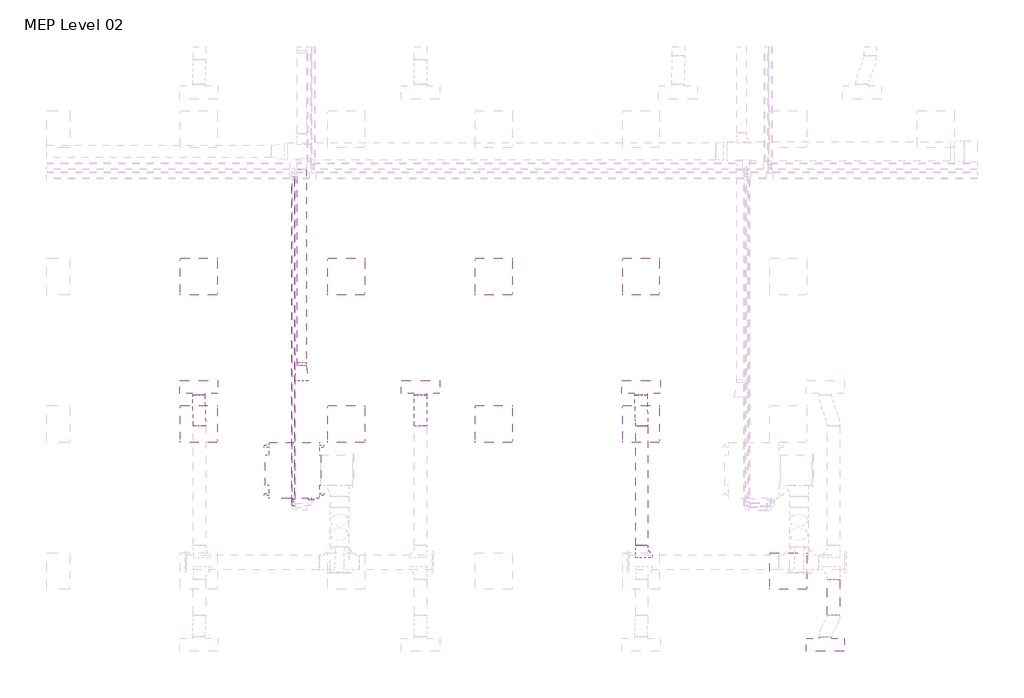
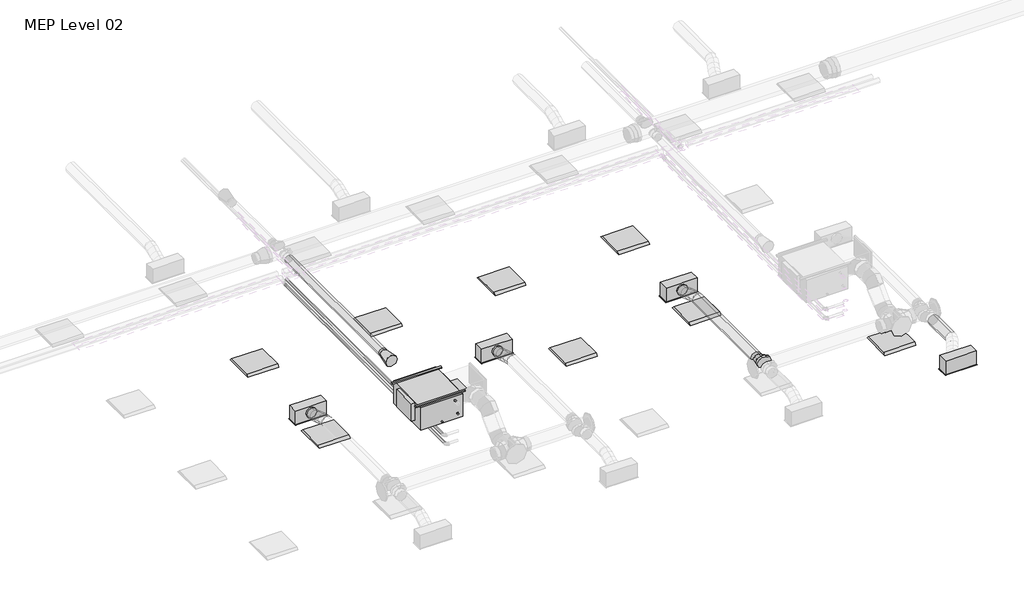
# One storey, part 6 of 26: 9 light fixtures, 6 duct segments, 5 air terminals, 2 pipe segments, 1 duct fitting, 1 proxy.
"""IFC4 building model written with IfcOpenShell, lengths in millimetres."""

from ifc_helpers import new_model, si_unit, point, frame, frame_2d, origin, place, context, project, spatial, circle_curve, ellipse_curve, trimmed, segment, composite_curve, outline, extrude, transform, mapped, element, save
from ifc_brep_helpers import plane_surface, cylinder_surface, advanced_brep
from components import air_terminal_0d1c431e, supply_diffuser_with_plenum_linear_slot_hosted_8c379eed, fan_coil_unit_ceiling_ducted_chw_376_lps_48d57206, dw144_round_shoe_branch_slip_joint_standard_15a2edd8, light_fixture_600x600_230_1c7c1157, light_fixture_600x600_230_b730b5ca

model = new_model("IFC4")

# Units and contexts
model_context = context("Model", 3, world=origin())
ifc_project = project(units=[si_unit("LENGTHUNIT", "METRE", prefix="MILLI")], contexts=[model_context])

# Site, building, storey
site = spatial("IfcSite", under=ifc_project)
building = spatial("IfcBuilding", under=site)
storey = spatial("IfcBuildingStorey", under=building, Name="MEP Level 02", Elevation=7800.0)

# Air terminals
placement = place(None, origin())
air_terminal_shape = air_terminal_0d1c431e(model_context)
element("IfcAirTerminal", 1, ObjectType="Supply_Bell_Mouth_Grille : Supply_Bell_Mouth_Grille", at=placement, inside=storey, context=model_context, shape_type="MappedRepresentation", body=[
    mapped(air_terminal_shape, transform((18039.0080407, 5510.2561435, 11100.0), x_axis=(0.0, -1.0, 0.0), y_axis=(1.0, 0.0, 0.0), z_axis=(0.0, 0.0, 1.0))),
])
supply_diffuser_with_plenum_linear_slot_hosted_shape = supply_diffuser_with_plenum_linear_slot_hosted_8c379eed(model_context)
element("IfcAirTerminal", 2, ObjectType="Supply Diffuser with Plenum - Linear Slot - Hosted : 600mmx193.8mm-200 In Inlet  4-Slot", at=placement, inside=storey, context=model_context, shape_type="MappedRepresentation", body=[
    mapped(supply_diffuser_with_plenum_linear_slot_hosted_shape, transform((26562.2000027, 963.2000004, 10600.0), x_axis=(1.0, 0.0, 0.0), y_axis=(0.0, -1.0, 0.0), z_axis=(0.0, 0.0, -1.0))),
])
element("IfcAirTerminal", 3, ObjectType="Supply Diffuser with Plenum - Linear Slot - Hosted : 600mmx193.8mm-200 In Inlet  4-Slot", at=placement, inside=storey, context=model_context, shape_type="MappedRepresentation", body=[
    mapped(supply_diffuser_with_plenum_linear_slot_hosted_shape, transform((16362.2000027, 5163.2000004, 10600.0), x_axis=(-1.0, 0.0, 0.0), y_axis=(0.0, 1.0, 0.0), z_axis=(0.0, 0.0, -1.0))),
])
element("IfcAirTerminal", 4, ObjectType="Supply Diffuser with Plenum - Linear Slot - Hosted : 600mmx193.8mm-200 In Inlet  4-Slot", at=placement, inside=storey, context=model_context, shape_type="MappedRepresentation", body=[
    mapped(supply_diffuser_with_plenum_linear_slot_hosted_shape, transform((19973.9000022, 5163.2000004, 10600.0), x_axis=(-1.0, 0.0, 0.0), y_axis=(0.0, 1.0, 0.0), z_axis=(0.0, 0.0, -1.0))),
])
element("IfcAirTerminal", 5, ObjectType="Supply Diffuser with Plenum - Linear Slot - Hosted : 600mmx193.8mm-200 In Inlet  4-Slot", at=placement, inside=storey, context=model_context, shape_type="MappedRepresentation", body=[
    mapped(supply_diffuser_with_plenum_linear_slot_hosted_shape, transform((23562.2000027, 5163.2000004, 10600.0), x_axis=(-1.0, 0.0, 0.0), y_axis=(0.0, 1.0, 0.0), z_axis=(0.0, 0.0, -1.0))),
])

# Proxy
fan_coil_unit_ceiling_ducted_chw_376_lps_shape = fan_coil_unit_ceiling_ducted_chw_376_lps_48d57206(model_context)
element("IfcBuildingElementProxy", 6, Name="Fan Coil Unit - Ceiling Ducted - CHW : 376 LPS", ObjectType="Fan Coil Unit - Ceiling Ducted - CHW : 376 LPS", at=placement, inside=storey, context=model_context, shape_type="MappedRepresentation", body=[
    mapped(fan_coil_unit_ceiling_ducted_chw_376_lps_shape, transform((18321.2561025, 4263.2000004, 11022.3911538), x_axis=(0.0, -1.0, 0.0), y_axis=(1.0, 0.0, 0.0), z_axis=(0.0, 0.0, 1.0))),
])

# Duct fitting
dw144_round_shoe_branch_slip_joint_standard_shape = dw144_round_shoe_branch_slip_joint_standard_15a2edd8(model_context)
element("IfcDuctFitting", 7, ObjectType="DW144 Round Shoe Branch - Slip Joint : Standard", at=placement, inside=storey, context=model_context, shape_type="MappedRepresentation", body=[
    mapped(dw144_round_shoe_branch_slip_joint_standard_shape, transform((23573.9000022, 2431.5018192, 10872.2088531), x_axis=(0.0, 1.0, 0.0), y_axis=(-1.0, 0.0, 0.0), z_axis=(0.0, 0.0, 1.0))),
])

# Duct segments
element("IfcDuctSegment", 8, ObjectType="DW144 Segmented Bend / Shoe Branch", at=placement, inside=storey, context=model_context, shape_type="SweptSolid", body=[
    extrude(outline(composite_curve([segment(trimmed(circle_curve(frame_2d((10872.2088531, 26693.9000022)), 100.0), [point((10872.2088531, 26593.9000022))], [point((10772.2088531, 26693.9000022))], False, "CARTESIAN"), True, "CONTINUOUS"), segment(trimmed(circle_curve(frame_2d((10872.2088531, 26693.9000022)), 100.0), [point((10772.2088531, 26693.9000022))], [point((10872.2088531, 26793.9000022))], False, "CARTESIAN"), True, "CONTINUOUS"), segment(trimmed(circle_curve(frame_2d((10872.2088531, 26693.9000022)), 100.0), [point((10872.2088531, 26793.9000022))], [point((10972.2088531, 26693.9000022))], False, "CARTESIAN"), True, "CONTINUOUS"), segment(trimmed(circle_curve(frame_2d((10872.2088531, 26693.9000022)), 100.0), [point((10972.2088531, 26693.9000022))], [point((10872.2088531, 26593.9000022))], False, "CARTESIAN"), True, "CONTINUOUS")], self_intersect=False)), frame((0.0, 1441.5018192, 0.0), z_axis=(0.0, 1.0, 0.0), x_axis=(0.0, 0.0, 1.0)), (0.0, 0.0, 1.0), 590.0),
])
element("IfcDuctSegment", 9, ObjectType="DW144 Segmented Bend / Shoe Branch", at=placement, inside=storey, context=model_context, shape_type="SweptSolid", body=[
    extrude(outline(composite_curve([segment(trimmed(circle_curve(frame_2d((10872.2088531, 23573.9000022)), 100.0), [point((10872.2088531, 23673.9000022))], [point((10972.2088531, 23573.9000022))], False, "CARTESIAN"), True, "CONTINUOUS"), segment(trimmed(circle_curve(frame_2d((10872.2088531, 23573.9000022)), 100.0), [point((10972.2088531, 23573.9000022))], [point((10872.2088531, 23473.9000022))], False, "CARTESIAN"), True, "CONTINUOUS"), segment(trimmed(circle_curve(frame_2d((10872.2088531, 23573.9000022)), 100.0), [point((10872.2088531, 23473.9000022))], [point((10772.2088531, 23573.9000022))], False, "CARTESIAN"), True, "CONTINUOUS"), segment(trimmed(circle_curve(frame_2d((10872.2088531, 23573.9000022)), 100.0), [point((10772.2088531, 23573.9000022))], [point((10872.2088531, 23673.9000022))], False, "CARTESIAN"), True, "CONTINUOUS")], self_intersect=False)), frame((0.0, 2581.5018192, 0.0), z_axis=(0.0, 1.0, 0.0), x_axis=(0.0, 0.0, 1.0)), (0.0, 0.0, 1.0), 1950.0),
])
element("IfcDuctSegment", 10, ObjectType="DW144 Segmented Bend / Shoe Branch", at=placement, inside=storey, context=model_context, shape_type="SweptSolid", body=[
    extrude(outline(composite_curve([segment(trimmed(circle_curve(frame_2d((11100.0, 18039.0080407)), 75.0), [point((11100.0, 17964.0080407))], [point((11025.0, 18039.0080407))], False, "CARTESIAN"), True, "CONTINUOUS"), segment(trimmed(circle_curve(frame_2d((11100.0, 18039.0080407)), 75.0), [point((11025.0, 18039.0080407))], [point((11100.0, 18114.0080407))], False, "CARTESIAN"), True, "CONTINUOUS"), segment(trimmed(circle_curve(frame_2d((11100.0, 18039.0080407)), 75.0), [point((11100.0, 18114.0080407))], [point((11175.0, 18039.0080407))], False, "CARTESIAN"), True, "CONTINUOUS"), segment(trimmed(circle_curve(frame_2d((11100.0, 18039.0080407)), 75.0), [point((11175.0, 18039.0080407))], [point((11100.0, 17964.0080407))], False, "CARTESIAN"), True, "CONTINUOUS")], self_intersect=False)), frame((0.0, 5510.2561435, 0.0), z_axis=(0.0, 1.0, 0.0), x_axis=(0.0, 0.0, 1.0)), (0.0, 0.0, 1.0), 3199.1601689),
])
element("IfcDuctSegment", 11, ObjectType="Flex - Round", at=placement, inside=storey, context=model_context, shape_type="AdvancedBrep", body=[
    advanced_brep(
    [(16273.9000022, 4531.5018192, 10872.2088531), (16373.9000022, 4531.5018192, 10772.2088531), (16473.9000022, 4531.5018192, 10872.2088531), (16373.9000022, 4531.5018192, 10972.2088531), (16273.9000022, 4545.0398748, 10872.2088531), (16373.9000022, 4537.729612, 10772.2088531), (16473.9000022, 4546.6519942, 10872.2088531), (16373.9000022, 4553.962257, 10972.2088531), (16262.2000027, 5034.3000004, 10754.4), (16362.2000027, 5034.3000004, 10854.4), (16462.2000027, 5034.3000004, 10754.4), (16362.2000027, 5034.3000004, 10654.4), (16272.0969471, 4656.1396088, 10854.0536514), (16372.3243089, 4634.8198875, 10756.3429867), (16472.0468075, 4660.8412095, 10853.5487883), (16371.8194457, 4682.1609309, 10951.2594529), (16268.0984043, 4779.8283707, 10813.7917909), (16368.5373668, 4751.9631047, 10718.2117629), (16468.0016006, 4785.9734489, 10812.8170622), (16367.5626381, 4813.8387149, 10908.3970903), (16264.0531974, 4904.9606101, 10773.0600649), (16364.2805591, 4883.6408888, 10675.3494002), (16464.0030578, 4909.6622108, 10772.5552017), (16363.775696, 4930.9819322, 10870.2658664), (16262.2000027, 5019.1498254, 10754.4), (16362.2000027, 5011.8395627, 10654.4), (16462.2000027, 5020.7619448, 10754.4), (16362.2000027, 5028.0722076, 10854.4)],
    [
        (0, 1, circle_curve(frame((16373.9000022, 4531.5018192, 10872.2088531), z_axis=(0.0, -1.0, 0.0), x_axis=(-1.0, 0.0, 0.0)), 100.0)),
        (1, 2, circle_curve(frame((16373.9000022, 4531.5018192, 10872.2088531), z_axis=(0.0, -1.0, 0.0), x_axis=(-1.0, 0.0, 0.0)), 100.0)),
        (2, 3, circle_curve(frame((16373.9000022, 4531.5018192, 10872.2088531), z_axis=(0.0, -1.0, 0.0), x_axis=(-1.0, 0.0, 0.0)), 100.0)),
        (3, 0, circle_curve(frame((16373.9000022, 4531.5018192, 10872.2088531), z_axis=(0.0, -1.0, 0.0), x_axis=(-1.0, 0.0, 0.0)), 100.0)),
        (0, 4),
        (4, 5, ellipse_curve(frame((16373.9000022, 4545.8459345, 10872.2088531), z_axis=(0.008033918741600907, -0.9966902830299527, 0.08089459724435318), x_axis=(-0.09850014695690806, -0.08129255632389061, -0.9918110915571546)), 100.3320708, 100.0)),
        (5, 1),
        (5, 6, ellipse_curve(frame((16373.9000022, 4545.8459345, 10872.2088531), z_axis=(0.008033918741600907, -0.9966902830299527, 0.08089459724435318), x_axis=(-0.09850014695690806, -0.08129255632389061, -0.9918110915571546)), 100.3320708, 100.0)),
        (6, 2),
        (6, 7, ellipse_curve(frame((16373.9000022, 4545.8459345, 10872.2088531), z_axis=(0.008033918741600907, -0.9966902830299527, 0.08089459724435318), x_axis=(-0.09850014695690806, -0.08129255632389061, -0.9918110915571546)), 100.3320708, 100.0)),
        (7, 3),
        (7, 4, ellipse_curve(frame((16373.9000022, 4545.8459345, 10872.2088531), z_axis=(0.008033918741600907, -0.9966902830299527, 0.08089459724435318), x_axis=(-0.09850014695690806, -0.08129255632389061, -0.9918110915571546)), 100.3320708, 100.0)),
        (8, 9, circle_curve(frame((16362.2000027, 5034.3000004, 10754.4), z_axis=(0.0, 1.0, 0.0), x_axis=(-1.0, 0.0, 0.0)), 100.0)),
        (9, 10, circle_curve(frame((16362.2000027, 5034.3000004, 10754.4), z_axis=(0.0, 1.0, 0.0), x_axis=(-1.0, 0.0, 0.0)), 100.0)),
        (10, 11, circle_curve(frame((16362.2000027, 5034.3000004, 10754.4), z_axis=(0.0, 1.0, 0.0), x_axis=(-1.0, 0.0, 0.0)), 100.0)),
        (11, 8, circle_curve(frame((16362.2000027, 5034.3000004, 10754.4), z_axis=(0.0, 1.0, 0.0), x_axis=(-1.0, 0.0, 0.0)), 100.0)),
        (4, 12),
        (12, 13, ellipse_curve(frame((16372.0718773, 4658.4904092, 10853.8012198), z_axis=(0.023438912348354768, -0.9714680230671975, 0.23600952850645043), x_axis=(-0.0960075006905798, -0.23717057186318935, -0.9667123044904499)), 100.2947714, 100.0)),
        (13, 5),
        (13, 14, ellipse_curve(frame((16372.0718773, 4658.4904092, 10853.8012198), z_axis=(0.023438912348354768, -0.9714680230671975, 0.23600952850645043), x_axis=(-0.0960075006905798, -0.23717057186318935, -0.9667123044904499)), 100.2947714, 100.0)),
        (14, 6),
        (14, 15, ellipse_curve(frame((16372.0718773, 4658.4904092, 10853.8012198), z_axis=(0.023438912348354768, -0.9714680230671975, 0.23600952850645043), x_axis=(-0.0960075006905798, -0.23717057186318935, -0.9667123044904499)), 100.2947714, 100.0)),
        (15, 7),
        (15, 12, ellipse_curve(frame((16372.0718773, 4658.4904092, 10853.8012198), z_axis=(0.023438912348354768, -0.9714680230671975, 0.23600952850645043), x_axis=(-0.0960075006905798, -0.23717057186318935, -0.9667123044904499)), 100.2947714, 100.0)),
        (12, 16),
        (16, 17, circle_curve(frame((16368.0500024, 4782.9009098, 10813.3044266), z_axis=(0.030725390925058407, -0.950442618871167, 0.30937805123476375), x_axis=(-0.999515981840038, -0.030725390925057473, 0.0048736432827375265)), 100.0)),
        (17, 13),
        (17, 18, circle_curve(frame((16368.0500024, 4782.9009098, 10813.3044266), z_axis=(0.030725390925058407, -0.950442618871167, 0.30937805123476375), x_axis=(-0.999515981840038, -0.030725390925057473, 0.0048736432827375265)), 100.0)),
        (18, 14),
        (18, 19, circle_curve(frame((16368.0500024, 4782.9009098, 10813.3044266), z_axis=(0.030725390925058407, -0.950442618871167, 0.30937805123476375), x_axis=(-0.999515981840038, -0.030725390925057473, 0.0048736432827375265)), 100.0)),
        (19, 15),
        (19, 16, circle_curve(frame((16368.0500024, 4782.9009098, 10813.3044266), z_axis=(0.030725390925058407, -0.950442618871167, 0.30937805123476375), x_axis=(-0.999515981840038, -0.030725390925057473, 0.0048736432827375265)), 100.0)),
        (16, 20),
        (20, 21, ellipse_curve(frame((16364.0281276, 4907.3114105, 10772.8076333), z_axis=(0.023438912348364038, -0.971468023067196, 0.23600952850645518), x_axis=(0.09600750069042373, 0.23717057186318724, 0.9667123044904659)), 100.2947714, 100.0)),
        (21, 17),
        (21, 22, ellipse_curve(frame((16364.0281276, 4907.3114105, 10772.8076333), z_axis=(0.023438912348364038, -0.971468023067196, 0.23600952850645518), x_axis=(0.09600750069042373, 0.23717057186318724, 0.9667123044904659)), 100.2947714, 100.0)),
        (22, 18),
        (22, 23, ellipse_curve(frame((16364.0281276, 4907.3114105, 10772.8076333), z_axis=(0.023438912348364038, -0.971468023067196, 0.23600952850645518), x_axis=(0.09600750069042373, 0.23717057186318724, 0.9667123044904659)), 100.2947714, 100.0)),
        (23, 19),
        (23, 20, ellipse_curve(frame((16364.0281276, 4907.3114105, 10772.8076333), z_axis=(0.023438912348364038, -0.971468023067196, 0.23600952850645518), x_axis=(0.09600750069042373, 0.23717057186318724, 0.9667123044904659)), 100.2947714, 100.0)),
        (20, 24),
        (24, 25, ellipse_curve(frame((16362.2000027, 5019.9558851, 10754.4), z_axis=(0.008033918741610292, -0.9966902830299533, 0.08089459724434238), x_axis=(0.0985001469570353, 0.08129255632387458, 0.9918110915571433)), 100.3320708, 100.0)),
        (25, 21),
        (25, 26, ellipse_curve(frame((16362.2000027, 5019.9558851, 10754.4), z_axis=(0.008033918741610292, -0.9966902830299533, 0.08089459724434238), x_axis=(0.0985001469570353, 0.08129255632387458, 0.9918110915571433)), 100.3320708, 100.0)),
        (26, 22),
        (26, 27, ellipse_curve(frame((16362.2000027, 5019.9558851, 10754.4), z_axis=(0.008033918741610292, -0.9966902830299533, 0.08089459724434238), x_axis=(0.0985001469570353, 0.08129255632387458, 0.9918110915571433)), 100.3320708, 100.0)),
        (27, 23),
        (27, 24, ellipse_curve(frame((16362.2000027, 5019.9558851, 10754.4), z_axis=(0.008033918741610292, -0.9966902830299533, 0.08089459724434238), x_axis=(0.0985001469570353, 0.08129255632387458, 0.9918110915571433)), 100.3320708, 100.0)),
        (24, 8),
        (11, 25),
        (10, 26),
        (9, 27),
    ],
    [
        plane_surface(frame((16273.9000022, 4531.5018192, 10872.2088531), z_axis=(0.0, -1.0, 0.0), x_axis=(0.0, 0.0, 1.0))),
        cylinder_surface(frame((16373.9000022, 4531.5018192, 10872.2088531), z_axis=(0.0, -1.0, 0.0), x_axis=(-1.0, 0.0, 0.0)), 100.0),
        plane_surface(frame((16262.2000027, 5034.3000004, 10754.4), z_axis=(0.0, 1.0, 0.0), x_axis=(0.0, 0.0, 1.0))),
        cylinder_surface(frame((16373.9000022, 4545.8459345, 10872.2088531), z_axis=(0.0160146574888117, -0.9867830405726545, 0.1612537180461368), x_axis=(-0.9998709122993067, -0.0160146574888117, 0.0012998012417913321)), 100.0),
        cylinder_surface(frame((16372.0718773, 4658.4904092, 10853.8012198), z_axis=(0.030725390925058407, -0.950442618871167, 0.30937805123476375), x_axis=(-0.999515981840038, -0.030725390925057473, 0.0048736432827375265)), 100.0),
        cylinder_surface(frame((16368.0500024, 4782.9009098, 10813.3044266), z_axis=(0.030725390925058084, -0.9504426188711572, 0.3093780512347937), x_axis=(-0.999515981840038, -0.030725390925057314, 0.00487364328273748)), 100.0),
        cylinder_surface(frame((16364.0281276, 4907.3114105, 10772.8076333), z_axis=(0.016014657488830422, -0.9867830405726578, 0.16125371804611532), x_axis=(-0.9998709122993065, -0.01601465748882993, 0.0012998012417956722)), 100.0),
        cylinder_surface(frame((16362.2000027, 5019.9558851, 10754.4), z_axis=(0.0, -1.0, 0.0), x_axis=(-1.0, 0.0, 0.0)), 100.0),
    ],
    [
        (0, [[1, 2, 3, 4]]),
        (1, [[-1, 5, 6, 7]]),
        (1, [[-2, -7, 8, 9]]),
        (1, [[-3, -9, 10, 11]]),
        (1, [[-4, -11, 12, -5]]),
        (2, [[13, 14, 15, 16]]),
        (3, [[-6, 17, 18, 19]]),
        (3, [[-8, -19, 20, 21]]),
        (3, [[-10, -21, 22, 23]]),
        (3, [[-12, -23, 24, -17]]),
        (4, [[-18, 25, 26, 27]]),
        (4, [[-20, -27, 28, 29]]),
        (4, [[-22, -29, 30, 31]]),
        (4, [[-24, -31, 32, -25]]),
        (5, [[-26, 33, 34, 35]]),
        (5, [[-28, -35, 36, 37]]),
        (5, [[-30, -37, 38, 39]]),
        (5, [[-32, -39, 40, -33]]),
        (6, [[-34, 41, 42, 43]]),
        (6, [[-36, -43, 44, 45]]),
        (6, [[-38, -45, 46, 47]]),
        (6, [[-40, -47, 48, -41]]),
        (7, [[-42, 49, -16, 50]]),
        (7, [[-44, -50, -15, 51]]),
        (7, [[-46, -51, -14, 52]]),
        (7, [[-48, -52, -13, -49]]),
    ],
),
])
element("IfcDuctSegment", 12, ObjectType="Flex - Round", at=placement, inside=storey, context=model_context, shape_type="AdvancedBrep", body=[
    advanced_brep(
    [(19873.9000022, 4531.5018192, 10872.2088531), (19973.9000022, 4531.5018192, 10772.2088531), (20073.9000022, 4531.5018192, 10872.2088531), (19973.9000022, 4531.5018192, 10972.2088531), (19873.9000022, 4545.8487649, 10872.2088531), (19973.9000022, 4537.7308336, 10772.2088531), (20073.9000022, 4545.8487649, 10872.2088531), (19973.9000022, 4553.9666963, 10972.2088531), (19873.9000022, 5034.3000004, 10754.4), (19973.9000022, 5034.3000004, 10854.4), (20073.9000022, 5034.3000004, 10754.4), (19973.9000022, 5034.3000004, 10654.4), (19873.9000022, 4658.4779853, 10853.8012198), (19973.9000022, 4634.8007072, 10756.3441723), (20073.9000022, 4658.4779853, 10853.8012198), (19973.9000022, 4682.1552634, 10951.2582674), (19873.9000022, 4782.9009098, 10813.3044266), (19973.9000022, 4751.9512855, 10718.21436), (20073.9000022, 4782.9009098, 10813.3044266), (19973.9000022, 4813.8505341, 10908.3944931), (19873.9000022, 4907.3238344, 10772.8076333), (19973.9000022, 4883.6465563, 10675.3505857), (20073.9000022, 4907.3238344, 10772.8076333), (19973.9000022, 4931.0011125, 10870.2646809), (19873.9000022, 5019.9530547, 10754.4), (19973.9000022, 5011.8351234, 10654.4), (20073.9000022, 5019.9530547, 10754.4), (19973.9000022, 5028.070986, 10854.4)],
    [
        (0, 1, circle_curve(frame((19973.9000022, 4531.5018192, 10872.2088531), z_axis=(0.0, -1.0, 0.0), x_axis=(-1.0, 0.0, 0.0)), 100.0)),
        (1, 2, circle_curve(frame((19973.9000022, 4531.5018192, 10872.2088531), z_axis=(0.0, -1.0, 0.0), x_axis=(-1.0, 0.0, 0.0)), 100.0)),
        (2, 3, circle_curve(frame((19973.9000022, 4531.5018192, 10872.2088531), z_axis=(0.0, -1.0, 0.0), x_axis=(-1.0, 0.0, 0.0)), 100.0)),
        (3, 0, circle_curve(frame((19973.9000022, 4531.5018192, 10872.2088531), z_axis=(0.0, -1.0, 0.0), x_axis=(-1.0, 0.0, 0.0)), 100.0)),
        (0, 4),
        (4, 5, ellipse_curve(frame((19973.9000022, 4545.8487649, 10872.2088531), z_axis=(0.0, -0.9967211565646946, 0.08091313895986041), x_axis=(0.0, -0.08091313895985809, -0.9967211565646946)), 100.328963, 100.0)),
        (5, 1),
        (5, 6, ellipse_curve(frame((19973.9000022, 4545.8487649, 10872.2088531), z_axis=(0.0, -0.9967211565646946, 0.08091313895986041), x_axis=(0.0, -0.08091313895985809, -0.9967211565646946)), 100.328963, 100.0)),
        (6, 2),
        (6, 7, ellipse_curve(frame((19973.9000022, 4545.8487649, 10872.2088531), z_axis=(0.0, -0.9967211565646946, 0.08091313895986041), x_axis=(0.0, -0.08091313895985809, -0.9967211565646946)), 100.328963, 100.0)),
        (7, 3),
        (7, 4, ellipse_curve(frame((19973.9000022, 4545.8487649, 10872.2088531), z_axis=(0.0, -0.9967211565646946, 0.08091313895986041), x_axis=(0.0, -0.08091313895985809, -0.9967211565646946)), 100.328963, 100.0)),
        (8, 9, circle_curve(frame((19973.9000022, 5034.3000004, 10754.4), z_axis=(0.0, 1.0, 0.0), x_axis=(-1.0, 0.0, 0.0)), 100.0)),
        (9, 10, circle_curve(frame((19973.9000022, 5034.3000004, 10754.4), z_axis=(0.0, 1.0, 0.0), x_axis=(-1.0, 0.0, 0.0)), 100.0)),
        (10, 11, circle_curve(frame((19973.9000022, 5034.3000004, 10754.4), z_axis=(0.0, 1.0, 0.0), x_axis=(-1.0, 0.0, 0.0)), 100.0)),
        (11, 8, circle_curve(frame((19973.9000022, 5034.3000004, 10754.4), z_axis=(0.0, 1.0, 0.0), x_axis=(-1.0, 0.0, 0.0)), 100.0)),
        (4, 12),
        (12, 13, ellipse_curve(frame((19973.9000022, 4658.4779853, 10853.8012198), z_axis=(0.0, -0.9717328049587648, 0.23608336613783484), x_axis=(0.0, -0.23608336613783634, -0.9717328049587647)), 100.2920217, 100.0)),
        (13, 5),
        (13, 14, ellipse_curve(frame((19973.9000022, 4658.4779853, 10853.8012198), z_axis=(0.0, -0.9717328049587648, 0.23608336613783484), x_axis=(0.0, -0.23608336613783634, -0.9717328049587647)), 100.2920217, 100.0)),
        (14, 6),
        (14, 15, ellipse_curve(frame((19973.9000022, 4658.4779853, 10853.8012198), z_axis=(0.0, -0.9717328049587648, 0.23608336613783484), x_axis=(0.0, -0.23608336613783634, -0.9717328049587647)), 100.2920217, 100.0)),
        (15, 7),
        (15, 12, ellipse_curve(frame((19973.9000022, 4658.4779853, 10853.8012198), z_axis=(0.0, -0.9717328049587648, 0.23608336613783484), x_axis=(0.0, -0.23608336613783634, -0.9717328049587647)), 100.2920217, 100.0)),
        (12, 16),
        (16, 17, circle_curve(frame((19973.9000022, 4782.9009098, 10813.3044266), z_axis=(0.0, -0.9509006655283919, 0.3094962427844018), x_axis=(-1.0, 0.0, 0.0)), 100.0)),
        (17, 13),
        (17, 18, circle_curve(frame((19973.9000022, 4782.9009098, 10813.3044266), z_axis=(0.0, -0.9509006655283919, 0.3094962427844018), x_axis=(-1.0, 0.0, 0.0)), 100.0)),
        (18, 14),
        (18, 19, circle_curve(frame((19973.9000022, 4782.9009098, 10813.3044266), z_axis=(0.0, -0.9509006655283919, 0.3094962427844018), x_axis=(-1.0, 0.0, 0.0)), 100.0)),
        (19, 15),
        (19, 16, circle_curve(frame((19973.9000022, 4782.9009098, 10813.3044266), z_axis=(0.0, -0.9509006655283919, 0.3094962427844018), x_axis=(-1.0, 0.0, 0.0)), 100.0)),
        (16, 20),
        (20, 21, ellipse_curve(frame((19973.9000022, 4907.3238344, 10772.8076333), z_axis=(0.0, -0.9717328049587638, 0.2360833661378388), x_axis=(0.0, 0.236083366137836, 0.9717328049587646)), 100.2920217, 100.0)),
        (21, 17),
        (21, 22, ellipse_curve(frame((19973.9000022, 4907.3238344, 10772.8076333), z_axis=(0.0, -0.9717328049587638, 0.2360833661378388), x_axis=(0.0, 0.236083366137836, 0.9717328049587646)), 100.2920217, 100.0)),
        (22, 18),
        (22, 23, ellipse_curve(frame((19973.9000022, 4907.3238344, 10772.8076333), z_axis=(0.0, -0.9717328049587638, 0.2360833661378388), x_axis=(0.0, 0.236083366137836, 0.9717328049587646)), 100.2920217, 100.0)),
        (23, 19),
        (23, 20, ellipse_curve(frame((19973.9000022, 4907.3238344, 10772.8076333), z_axis=(0.0, -0.9717328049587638, 0.2360833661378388), x_axis=(0.0, 0.236083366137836, 0.9717328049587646)), 100.2920217, 100.0)),
        (20, 24),
        (24, 25, ellipse_curve(frame((19973.9000022, 5019.9530547, 10754.4), z_axis=(0.0, -0.9967211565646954, 0.0809131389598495), x_axis=(0.0, 0.08091313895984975, 0.9967211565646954)), 100.328963, 100.0)),
        (25, 21),
        (25, 26, ellipse_curve(frame((19973.9000022, 5019.9530547, 10754.4), z_axis=(0.0, -0.9967211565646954, 0.0809131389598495), x_axis=(0.0, 0.08091313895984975, 0.9967211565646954)), 100.328963, 100.0)),
        (26, 22),
        (26, 27, ellipse_curve(frame((19973.9000022, 5019.9530547, 10754.4), z_axis=(0.0, -0.9967211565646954, 0.0809131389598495), x_axis=(0.0, 0.08091313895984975, 0.9967211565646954)), 100.328963, 100.0)),
        (27, 23),
        (27, 24, ellipse_curve(frame((19973.9000022, 5019.9530547, 10754.4), z_axis=(0.0, -0.9967211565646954, 0.0809131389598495), x_axis=(0.0, 0.08091313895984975, 0.9967211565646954)), 100.328963, 100.0)),
        (24, 8),
        (11, 25),
        (10, 26),
        (9, 27),
    ],
    [
        plane_surface(frame((19873.9000022, 4531.5018192, 10872.2088531), z_axis=(0.0, -1.0, 0.0), x_axis=(0.0, 0.0, 1.0))),
        cylinder_surface(frame((19973.9000022, 4531.5018192, 10872.2088531), z_axis=(0.0, -1.0, 0.0), x_axis=(-1.0, 0.0, 0.0)), 100.0),
        plane_surface(frame((19873.9000022, 5034.3000004, 10754.4), z_axis=(0.0, 1.0, 0.0), x_axis=(0.0, 0.0, 1.0))),
        cylinder_surface(frame((19973.9000022, 4545.8487649, 10872.2088531), z_axis=(0.0, -0.9869061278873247, 0.16129567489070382), x_axis=(-1.0, 0.0, 0.0)), 100.0),
        cylinder_surface(frame((19973.9000022, 4658.4779853, 10853.8012198), z_axis=(0.0, -0.9509006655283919, 0.3094962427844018), x_axis=(-1.0, 0.0, 0.0)), 100.0),
        cylinder_surface(frame((19973.9000022, 4782.9009098, 10813.3044266), z_axis=(0.0, -0.9509006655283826, 0.3094962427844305), x_axis=(-1.0, 0.0, 0.0)), 100.0),
        cylinder_surface(frame((19973.9000022, 4907.3238344, 10772.8076333), z_axis=(0.0, -0.9869061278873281, 0.16129567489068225), x_axis=(-1.0, 0.0, 0.0)), 100.0),
        cylinder_surface(frame((19973.9000022, 5019.9530547, 10754.4), z_axis=(0.0, -1.0, 0.0), x_axis=(-1.0, 0.0, 0.0)), 100.0),
    ],
    [
        (0, [[1, 2, 3, 4]]),
        (1, [[-1, 5, 6, 7]]),
        (1, [[-2, -7, 8, 9]]),
        (1, [[-3, -9, 10, 11]]),
        (1, [[-4, -11, 12, -5]]),
        (2, [[13, 14, 15, 16]]),
        (3, [[-6, 17, 18, 19]]),
        (3, [[-8, -19, 20, 21]]),
        (3, [[-10, -21, 22, 23]]),
        (3, [[-12, -23, 24, -17]]),
        (4, [[-18, 25, 26, 27]]),
        (4, [[-20, -27, 28, 29]]),
        (4, [[-22, -29, 30, 31]]),
        (4, [[-24, -31, 32, -25]]),
        (5, [[-26, 33, 34, 35]]),
        (5, [[-28, -35, 36, 37]]),
        (5, [[-30, -37, 38, 39]]),
        (5, [[-32, -39, 40, -33]]),
        (6, [[-34, 41, 42, 43]]),
        (6, [[-36, -43, 44, 45]]),
        (6, [[-38, -45, 46, 47]]),
        (6, [[-40, -47, 48, -41]]),
        (7, [[-42, 49, -16, 50]]),
        (7, [[-44, -50, -15, 51]]),
        (7, [[-46, -51, -14, 52]]),
        (7, [[-48, -52, -13, -49]]),
    ],
),
])
element("IfcDuctSegment", 13, ObjectType="Flex - Round", at=placement, inside=storey, context=model_context, shape_type="AdvancedBrep", body=[
    advanced_brep(
    [(23473.9000022, 4531.5018192, 10872.2088531), (23573.9000022, 4531.5018192, 10772.2088531), (23673.9000022, 4531.5018192, 10872.2088531), (23573.9000022, 4531.5018192, 10972.2088531), (23473.9000022, 4545.0398748, 10872.2088531), (23573.9000022, 4537.729612, 10772.2088531), (23673.9000022, 4546.6519942, 10872.2088531), (23573.9000022, 4553.962257, 10972.2088531), (23462.2000027, 5034.3000004, 10754.4), (23562.2000027, 5034.3000004, 10854.4), (23662.2000027, 5034.3000004, 10754.4), (23562.2000027, 5034.3000004, 10654.4), (23472.0969471, 4656.1396088, 10854.0536514), (23572.3243089, 4634.8198875, 10756.3429867), (23672.0468075, 4660.8412095, 10853.5487883), (23571.8194457, 4682.1609309, 10951.2594529), (23468.0984043, 4779.8283707, 10813.7917909), (23568.5373668, 4751.9631047, 10718.2117629), (23668.0016006, 4785.9734489, 10812.8170622), (23567.5626381, 4813.8387149, 10908.3970903), (23464.0531974, 4904.9606101, 10773.0600649), (23564.2805591, 4883.6408888, 10675.3494002), (23664.0030578, 4909.6622108, 10772.5552017), (23563.775696, 4930.9819322, 10870.2658664), (23462.2000027, 5019.1498254, 10754.4), (23562.2000027, 5011.8395627, 10654.4), (23662.2000027, 5020.7619448, 10754.4), (23562.2000027, 5028.0722076, 10854.4)],
    [
        (0, 1, circle_curve(frame((23573.9000022, 4531.5018192, 10872.2088531), z_axis=(0.0, -1.0, 0.0), x_axis=(-1.0, 0.0, 0.0)), 100.0)),
        (1, 2, circle_curve(frame((23573.9000022, 4531.5018192, 10872.2088531), z_axis=(0.0, -1.0, 0.0), x_axis=(-1.0, 0.0, 0.0)), 100.0)),
        (2, 3, circle_curve(frame((23573.9000022, 4531.5018192, 10872.2088531), z_axis=(0.0, -1.0, 0.0), x_axis=(-1.0, 0.0, 0.0)), 100.0)),
        (3, 0, circle_curve(frame((23573.9000022, 4531.5018192, 10872.2088531), z_axis=(0.0, -1.0, 0.0), x_axis=(-1.0, 0.0, 0.0)), 100.0)),
        (0, 4),
        (4, 5, ellipse_curve(frame((23573.9000022, 4545.8459345, 10872.2088531), z_axis=(0.008033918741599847, -0.9966902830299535, 0.08089459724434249), x_axis=(-0.09850014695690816, -0.08129255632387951, -0.9918110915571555)), 100.3320708, 100.0)),
        (5, 1),
        (5, 6, ellipse_curve(frame((23573.9000022, 4545.8459345, 10872.2088531), z_axis=(0.008033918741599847, -0.9966902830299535, 0.08089459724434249), x_axis=(-0.09850014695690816, -0.08129255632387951, -0.9918110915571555)), 100.3320708, 100.0)),
        (6, 2),
        (6, 7, ellipse_curve(frame((23573.9000022, 4545.8459345, 10872.2088531), z_axis=(0.008033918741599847, -0.9966902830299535, 0.08089459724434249), x_axis=(-0.09850014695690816, -0.08129255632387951, -0.9918110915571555)), 100.3320708, 100.0)),
        (7, 3),
        (7, 4, ellipse_curve(frame((23573.9000022, 4545.8459345, 10872.2088531), z_axis=(0.008033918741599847, -0.9966902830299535, 0.08089459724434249), x_axis=(-0.09850014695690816, -0.08129255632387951, -0.9918110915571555)), 100.3320708, 100.0)),
        (8, 9, circle_curve(frame((23562.2000027, 5034.3000004, 10754.4), z_axis=(0.0, 1.0, 0.0), x_axis=(-1.0, 0.0, 0.0)), 100.0)),
        (9, 10, circle_curve(frame((23562.2000027, 5034.3000004, 10754.4), z_axis=(0.0, 1.0, 0.0), x_axis=(-1.0, 0.0, 0.0)), 100.0)),
        (10, 11, circle_curve(frame((23562.2000027, 5034.3000004, 10754.4), z_axis=(0.0, 1.0, 0.0), x_axis=(-1.0, 0.0, 0.0)), 100.0)),
        (11, 8, circle_curve(frame((23562.2000027, 5034.3000004, 10754.4), z_axis=(0.0, 1.0, 0.0), x_axis=(-1.0, 0.0, 0.0)), 100.0)),
        (4, 12),
        (12, 13, ellipse_curve(frame((23572.0718773, 4658.4904092, 10853.8012198), z_axis=(0.02343891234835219, -0.9714680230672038, 0.23600952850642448), x_axis=(-0.09600750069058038, -0.23717057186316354, -0.9667123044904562)), 100.2947714, 100.0)),
        (13, 5),
        (13, 14, ellipse_curve(frame((23572.0718773, 4658.4904092, 10853.8012198), z_axis=(0.02343891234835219, -0.9714680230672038, 0.23600952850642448), x_axis=(-0.09600750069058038, -0.23717057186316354, -0.9667123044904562)), 100.2947714, 100.0)),
        (14, 6),
        (14, 15, ellipse_curve(frame((23572.0718773, 4658.4904092, 10853.8012198), z_axis=(0.02343891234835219, -0.9714680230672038, 0.23600952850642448), x_axis=(-0.09600750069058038, -0.23717057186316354, -0.9667123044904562)), 100.2947714, 100.0)),
        (15, 7),
        (15, 12, ellipse_curve(frame((23572.0718773, 4658.4904092, 10853.8012198), z_axis=(0.02343891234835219, -0.9714680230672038, 0.23600952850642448), x_axis=(-0.09600750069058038, -0.23717057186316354, -0.9667123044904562)), 100.2947714, 100.0)),
        (12, 16),
        (16, 17, circle_curve(frame((23568.0500024, 4782.9009098, 10813.3044266), z_axis=(0.030725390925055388, -0.950442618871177, 0.30937805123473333), x_axis=(-0.9995159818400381, -0.030725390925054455, 0.0048736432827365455)), 100.0)),
        (17, 13),
        (17, 18, circle_curve(frame((23568.0500024, 4782.9009098, 10813.3044266), z_axis=(0.030725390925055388, -0.950442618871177, 0.30937805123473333), x_axis=(-0.9995159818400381, -0.030725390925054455, 0.0048736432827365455)), 100.0)),
        (18, 14),
        (18, 19, circle_curve(frame((23568.0500024, 4782.9009098, 10813.3044266), z_axis=(0.030725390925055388, -0.950442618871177, 0.30937805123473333), x_axis=(-0.9995159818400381, -0.030725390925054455, 0.0048736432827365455)), 100.0)),
        (19, 15),
        (19, 16, circle_curve(frame((23568.0500024, 4782.9009098, 10813.3044266), z_axis=(0.030725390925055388, -0.950442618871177, 0.30937805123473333), x_axis=(-0.9995159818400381, -0.030725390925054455, 0.0048736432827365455)), 100.0)),
        (16, 20),
        (20, 21, ellipse_curve(frame((23564.0281276, 4907.3114105, 10772.8076333), z_axis=(0.023438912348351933, -0.9714680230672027, 0.23600952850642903), x_axis=(0.09600750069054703, 0.2371705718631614, 0.96671230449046)), 100.2947714, 100.0)),
        (21, 17),
        (21, 22, ellipse_curve(frame((23564.0281276, 4907.3114105, 10772.8076333), z_axis=(0.023438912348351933, -0.9714680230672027, 0.23600952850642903), x_axis=(0.09600750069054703, 0.2371705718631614, 0.96671230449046)), 100.2947714, 100.0)),
        (22, 18),
        (22, 23, ellipse_curve(frame((23564.0281276, 4907.3114105, 10772.8076333), z_axis=(0.023438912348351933, -0.9714680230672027, 0.23600952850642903), x_axis=(0.09600750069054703, 0.2371705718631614, 0.96671230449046)), 100.2947714, 100.0)),
        (23, 19),
        (23, 20, ellipse_curve(frame((23564.0281276, 4907.3114105, 10772.8076333), z_axis=(0.023438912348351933, -0.9714680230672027, 0.23600952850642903), x_axis=(0.09600750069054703, 0.2371705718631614, 0.96671230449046)), 100.2947714, 100.0)),
        (20, 24),
        (24, 25, ellipse_curve(frame((23562.2000027, 5019.9558851, 10754.4), z_axis=(0.008033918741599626, -0.9966902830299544, 0.08089459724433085), x_axis=(0.0985001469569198, 0.08129255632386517, 0.9918110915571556)), 100.3320708, 100.0)),
        (25, 21),
        (25, 26, ellipse_curve(frame((23562.2000027, 5019.9558851, 10754.4), z_axis=(0.008033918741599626, -0.9966902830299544, 0.08089459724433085), x_axis=(0.0985001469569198, 0.08129255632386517, 0.9918110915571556)), 100.3320708, 100.0)),
        (26, 22),
        (26, 27, ellipse_curve(frame((23562.2000027, 5019.9558851, 10754.4), z_axis=(0.008033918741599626, -0.9966902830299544, 0.08089459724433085), x_axis=(0.0985001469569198, 0.08129255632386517, 0.9918110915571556)), 100.3320708, 100.0)),
        (27, 23),
        (27, 24, ellipse_curve(frame((23562.2000027, 5019.9558851, 10754.4), z_axis=(0.008033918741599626, -0.9966902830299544, 0.08089459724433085), x_axis=(0.0985001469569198, 0.08129255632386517, 0.9918110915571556)), 100.3320708, 100.0)),
        (24, 8),
        (11, 25),
        (10, 26),
        (9, 27),
    ],
    [
        plane_surface(frame((23473.9000022, 4531.5018192, 10872.2088531), z_axis=(0.0, -1.0, 0.0), x_axis=(0.0, 0.0, 1.0))),
        cylinder_surface(frame((23573.9000022, 4531.5018192, 10872.2088531), z_axis=(0.0, -1.0, 0.0), x_axis=(-1.0, 0.0, 0.0)), 100.0),
        plane_surface(frame((23462.2000027, 5034.3000004, 10754.4), z_axis=(0.0, 1.0, 0.0), x_axis=(0.0, 0.0, 1.0))),
        cylinder_surface(frame((23573.9000022, 4545.8459345, 10872.2088531), z_axis=(0.016014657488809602, -0.9867830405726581, 0.16125371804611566), x_axis=(-0.9998709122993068, -0.016014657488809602, 0.001299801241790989)), 100.0),
        cylinder_surface(frame((23572.0718773, 4658.4904092, 10853.8012198), z_axis=(0.030725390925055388, -0.950442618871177, 0.30937805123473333), x_axis=(-0.9995159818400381, -0.030725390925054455, 0.0048736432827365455)), 100.0),
        cylinder_surface(frame((23568.0500024, 4782.9009098, 10813.3044266), z_axis=(0.03072539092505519, -0.9504426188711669, 0.3093780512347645), x_axis=(-0.9995159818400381, -0.030725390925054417, 0.004873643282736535)), 100.0),
        cylinder_surface(frame((23564.0281276, 4907.3114105, 10772.8076333), z_axis=(0.01601465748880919, -0.9867830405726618, 0.1612537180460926), x_axis=(-0.9998709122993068, -0.016014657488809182, 0.0012998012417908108)), 100.0),
        cylinder_surface(frame((23562.2000027, 5019.9558851, 10754.4), z_axis=(0.0, -1.0, 0.0), x_axis=(-1.0, 0.0, 0.0)), 100.0),
    ],
    [
        (0, [[1, 2, 3, 4]]),
        (1, [[-1, 5, 6, 7]]),
        (1, [[-2, -7, 8, 9]]),
        (1, [[-3, -9, 10, 11]]),
        (1, [[-4, -11, 12, -5]]),
        (2, [[13, 14, 15, 16]]),
        (3, [[-6, 17, 18, 19]]),
        (3, [[-8, -19, 20, 21]]),
        (3, [[-10, -21, 22, 23]]),
        (3, [[-12, -23, 24, -17]]),
        (4, [[-18, 25, 26, 27]]),
        (4, [[-20, -27, 28, 29]]),
        (4, [[-22, -29, 30, 31]]),
        (4, [[-24, -31, 32, -25]]),
        (5, [[-26, 33, 34, 35]]),
        (5, [[-28, -35, 36, 37]]),
        (5, [[-30, -37, 38, 39]]),
        (5, [[-32, -39, 40, -33]]),
        (6, [[-34, 41, 42, 43]]),
        (6, [[-36, -43, 44, 45]]),
        (6, [[-38, -45, 46, 47]]),
        (6, [[-40, -47, 48, -41]]),
        (7, [[-42, 49, -16, 50]]),
        (7, [[-44, -50, -15, 51]]),
        (7, [[-46, -51, -14, 52]]),
        (7, [[-48, -52, -13, -49]]),
    ],
),
])

# Light fixtures
light_fixture_600x600_230_shape = light_fixture_600x600_230_1c7c1157(model_context)
element("IfcLightFixture", 14, ObjectType="ELEKTRA Recessed Lighting Fixture : 600x600 - 230", at=placement, inside=storey, context=model_context, shape_type="MappedRepresentation", body=[
    mapped(light_fixture_600x600_230_shape, transform((25662.2000027, 1863.2000004, 10600.0), x_axis=(1.0, 0.0, 0.0), y_axis=(0.0, -1.0, 0.0), z_axis=(0.0, 0.0, -1.0))),
])
element("IfcLightFixture", 15, ObjectType="ELEKTRA Recessed Lighting Fixture : 600x600 - 230", at=placement, inside=storey, context=model_context, shape_type="MappedRepresentation", body=[
    mapped(light_fixture_600x600_230_shape, transform((23262.2000027, 6663.2000004, 10600.0), x_axis=(1.0, 0.0, 0.0), y_axis=(0.0, -1.0, 0.0), z_axis=(0.0, 0.0, -1.0))),
])
element("IfcLightFixture", 16, ObjectType="ELEKTRA Recessed Lighting Fixture : 600x600 - 230", at=placement, inside=storey, context=model_context, shape_type="MappedRepresentation", body=[
    mapped(light_fixture_600x600_230_shape, transform((20862.2000027, 4263.2000004, 10600.0), x_axis=(1.0, 0.0, 0.0), y_axis=(0.0, -1.0, 0.0), z_axis=(0.0, 0.0, -1.0))),
])
element("IfcLightFixture", 17, ObjectType="ELEKTRA Recessed Lighting Fixture : 600x600 - 230", at=placement, inside=storey, context=model_context, shape_type="MappedRepresentation", body=[
    mapped(light_fixture_600x600_230_shape, transform((20862.2000027, 6663.2000004, 10600.0), x_axis=(1.0, 0.0, 0.0), y_axis=(0.0, -1.0, 0.0), z_axis=(0.0, 0.0, -1.0))),
])
element("IfcLightFixture", 18, ObjectType="ELEKTRA Recessed Lighting Fixture : 600x600 - 230", at=placement, inside=storey, context=model_context, shape_type="MappedRepresentation", body=[
    mapped(light_fixture_600x600_230_shape, transform((18462.2000027, 6663.2000004, 10600.0), x_axis=(1.0, 0.0, 0.0), y_axis=(0.0, -1.0, 0.0), z_axis=(0.0, 0.0, -1.0))),
])
element("IfcLightFixture", 19, ObjectType="ELEKTRA Recessed Lighting Fixture : 600x600 - 230", at=placement, inside=storey, context=model_context, shape_type="MappedRepresentation", body=[
    mapped(light_fixture_600x600_230_shape, transform((16062.2000027, 4263.2000004, 10600.0), x_axis=(1.0, 0.0, 0.0), y_axis=(0.0, -1.0, 0.0), z_axis=(0.0, 0.0, -1.0))),
])
element("IfcLightFixture", 20, ObjectType="ELEKTRA Recessed Lighting Fixture : 600x600 - 230", at=placement, inside=storey, context=model_context, shape_type="MappedRepresentation", body=[
    mapped(light_fixture_600x600_230_shape, transform((16062.2000027, 6663.2000004, 10600.0), x_axis=(1.0, 0.0, 0.0), y_axis=(0.0, -1.0, 0.0), z_axis=(0.0, 0.0, -1.0))),
])
light_fixture_600x600_230_2_shape = light_fixture_600x600_230_b730b5ca(model_context)
element("IfcLightFixture", 21, ObjectType="ELEKTRA EM Recessed Lighting Fixture : 600x600 - 230", at=placement, inside=storey, context=model_context, shape_type="MappedRepresentation", body=[
    mapped(light_fixture_600x600_230_2_shape, transform((23262.2000027, 4263.2000004, 10600.0), x_axis=(1.0, 0.0, 0.0), y_axis=(0.0, -1.0, 0.0), z_axis=(0.0, 0.0, -1.0))),
])
element("IfcLightFixture", 22, ObjectType="ELEKTRA EM Recessed Lighting Fixture : 600x600 - 230", at=placement, inside=storey, context=model_context, shape_type="MappedRepresentation", body=[
    mapped(light_fixture_600x600_230_2_shape, transform((18462.2000027, 4263.2000004, 10600.0), x_axis=(1.0, 0.0, 0.0), y_axis=(0.0, -1.0, 0.0), z_axis=(0.0, 0.0, -1.0))),
])

# Pipe segments
element("IfcPipeSegment", 23, ObjectType="Carbon Steel - Threaded", at=placement, inside=storey, context=model_context, shape_type="SweptSolid", body=[
    extrude(outline(composite_curve([segment(trimmed(circle_curve(frame_2d((10834.6193977, 17898.7529576)), 21.45), [point((10834.6193977, 17920.2029576))], [point((10856.0693977, 17898.7529576))], False, "CARTESIAN"), True, "CONTINUOUS"), segment(trimmed(circle_curve(frame_2d((10834.6193977, 17898.7529576)), 21.45), [point((10856.0693977, 17898.7529576))], [point((10834.6193977, 17877.3029576))], False, "CARTESIAN"), True, "CONTINUOUS"), segment(trimmed(circle_curve(frame_2d((10834.6193977, 17898.7529576)), 21.45), [point((10834.6193977, 17877.3029576))], [point((10813.1693977, 17898.7529576))], False, "CARTESIAN"), True, "CONTINUOUS"), segment(trimmed(circle_curve(frame_2d((10834.6193977, 17898.7529576)), 21.45), [point((10813.1693977, 17898.7529576))], [point((10834.6193977, 17920.2029576))], False, "CARTESIAN"), True, "CONTINUOUS")], self_intersect=False)), frame((0.0, 3291.7427522, 0.0), z_axis=(0.0, 1.0, 0.0), x_axis=(0.0, 0.0, 1.0)), (0.0, 0.0, 1.0), 5251.9190391),
])
element("IfcPipeSegment", 24, ObjectType="Carbon Steel - Threaded", at=placement, inside=storey, context=model_context, shape_type="SweptSolid", body=[
    extrude(outline(composite_curve([segment(trimmed(circle_curve(frame_2d((10693.9343179, 17903.0774681)), 21.45), [point((10693.9343179, 17881.6274681))], [point((10672.4843179, 17903.0774681))], False, "CARTESIAN"), True, "CONTINUOUS"), segment(trimmed(circle_curve(frame_2d((10693.9343179, 17903.0774681)), 21.45), [point((10672.4843179, 17903.0774681))], [point((10693.9343179, 17924.5274681))], False, "CARTESIAN"), True, "CONTINUOUS"), segment(trimmed(circle_curve(frame_2d((10693.9343179, 17903.0774681)), 21.45), [point((10693.9343179, 17924.5274681))], [point((10715.3843179, 17903.0774681))], False, "CARTESIAN"), True, "CONTINUOUS"), segment(trimmed(circle_curve(frame_2d((10693.9343179, 17903.0774681)), 21.45), [point((10715.3843179, 17903.0774681))], [point((10693.9343179, 17881.6274681))], False, "CARTESIAN"), True, "CONTINUOUS")], self_intersect=False)), frame((0.0, 3222.232951, 0.0), z_axis=(0.0, 1.0, 0.0), x_axis=(0.0, 0.0, 1.0)), (0.0, 0.0, 1.0), 5368.3868039),
])

save(model, "model.ifc")
